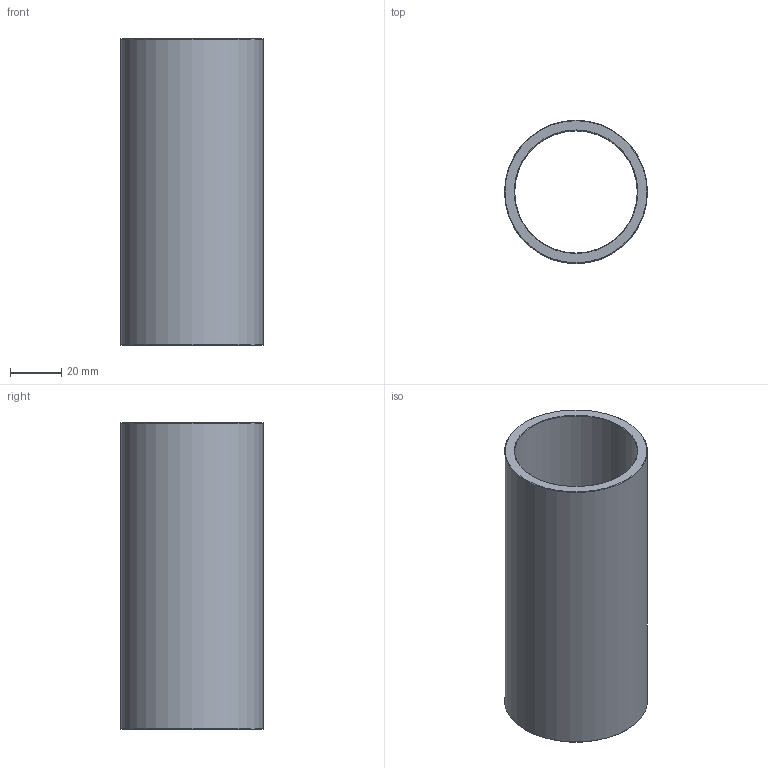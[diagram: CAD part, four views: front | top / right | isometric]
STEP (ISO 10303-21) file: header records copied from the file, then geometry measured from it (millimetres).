
FILE_DESCRIPTION(('STEP AP203'),'1');
FILE_NAME('C:/Users/Rodrigo/Desktop/GA4.048.120-1.step','2016-11-07T19:30:51',(' '),(' '),'Spatial InterOp 3D',' ',' ');
FILE_SCHEMA(('CONFIG_CONTROL_DESIGN'));
Length unit declared in the file: millimetre
Products named in the file (1): 1
Bounding box: 56 x 56 x 120 mm (x, y, z)
Volume: 78401.1 mm3; surface area: 40437.4 mm2
Topology: 1 solids, 1 shells, 8 faces, 14 edges, 8 vertices
Faces by surface type: cone 4, cylinder 2, plane 2
Full cylindrical faces by diameter (mm): 48 x1, 56 x1
Entity records: 212 total; most frequent: DIRECTION 34, CARTESIAN_POINT 25, AXIS2_PLACEMENT_3D 17, EDGE_LOOP 16, ORIENTED_EDGE 16, FACE_OUTER_BOUND 10, ADVANCED_FACE 8, EDGE_CURVE 8
